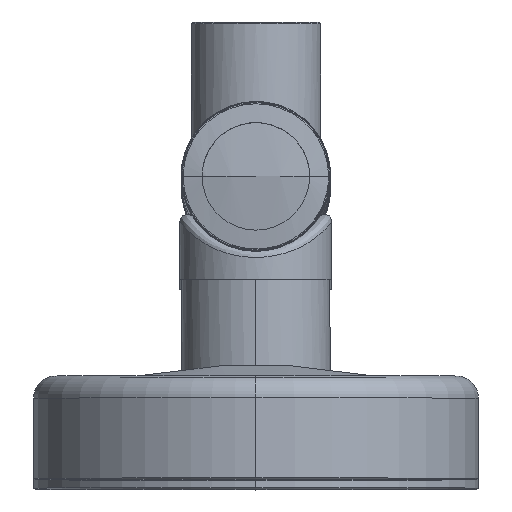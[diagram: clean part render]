
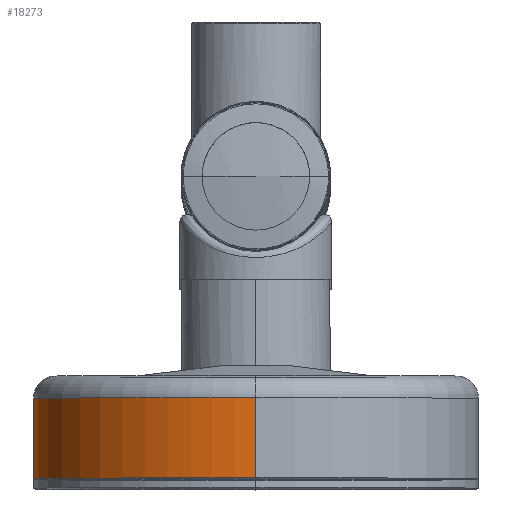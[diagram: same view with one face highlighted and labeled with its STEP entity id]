
A CAD part, top view. The second image highlights one B-rep face of the part: STEP entity #18273.
In plain terms, the highlighted cylindrical face has radius 30 mm (diameter 60 mm), a partial arc.
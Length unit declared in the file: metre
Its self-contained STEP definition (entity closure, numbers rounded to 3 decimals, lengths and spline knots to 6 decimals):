
#17388=VERTEX_POINT('',#17389);
#17389=CARTESIAN_POINT('',(0.0,-0.0128,-0.018));
#17396=VERTEX_POINT('',#17397);
#17397=CARTESIAN_POINT('',(0.0,-0.0128,0.042));
#18082=VERTEX_POINT('',#18083);
#18083=CARTESIAN_POINT('',(0.0,-0.002,0.042));
#18084=VERTEX_POINT('',#18085);
#18085=CARTESIAN_POINT('',(0.0,-0.002,-0.018));
#18194=CYLINDRICAL_SURFACE('',#18195,0.03);
#18195=AXIS2_PLACEMENT_3D('',#18196,#18197,#18198);
#18196=CARTESIAN_POINT('',(0.0,0.0,0.012));
#18197=DIRECTION('',(0.0,1.0,0.0));
#18198=DIRECTION('',(0.0,0.0,1.0));
#18203=EDGE_CURVE('',#17388,#18084,#18204,.T.);
#18204=LINE('',#18205,#18206);
#18205=CARTESIAN_POINT('',(0.0,0.0,-0.018));
#18206=VECTOR('',#18207,1.0);
#18207=DIRECTION('',(0.0,1.0,0.0));
#18210=EDGE_CURVE('',#17396,#18082,#18211,.T.);
#18211=LINE('',#18212,#18213);
#18212=CARTESIAN_POINT('',(0.0,-0.013,0.042));
#18213=VECTOR('',#18214,1.0);
#18214=DIRECTION('',(0.0,1.0,0.0));
#18272=FACE_OUTER_BOUND('',#18274,.T.);
#18273=ADVANCED_FACE('',(#18272),#18194,.T.);
#18274=EDGE_LOOP('',(#18275,#18276,#18283,#18284));
#18275=ORIENTED_EDGE('',*,*,#18203,.F.);
#18276=ORIENTED_EDGE('',*,*,#18278,.T.);
#18277=CARTESIAN_POINT('',(0.0,-0.0128,-0.018));
#18278=EDGE_CURVE('',#17388,#17396,#18279,.T.);
#18279=(B_SPLINE_CURVE(3,(#18277,#18280,#18281,#18282),.UNSPECIFIED.,.F.,
  .U.)B_SPLINE_CURVE_WITH_KNOTS((4,4),(0.0,1.0),.UNSPECIFIED.)BOUNDED_CURVE(
  )CURVE()GEOMETRIC_REPRESENTATION_ITEM()RATIONAL_B_SPLINE_CURVE((1.0,
  0.333,0.333,1.0))REPRESENTATION_ITEM(''));
#18280=CARTESIAN_POINT('',(-0.06,-0.0128,-0.018));
#18281=CARTESIAN_POINT('',(-0.06,-0.0128,0.042));
#18282=CARTESIAN_POINT('',(0.0,-0.0128,0.042));
#18283=ORIENTED_EDGE('',*,*,#18210,.T.);
#18284=ORIENTED_EDGE('',*,*,#18286,.F.);
#18285=CARTESIAN_POINT('',(0.0,-0.002,-0.018));
#18286=EDGE_CURVE('',#18084,#18082,#18287,.T.);
#18287=(B_SPLINE_CURVE(3,(#18285,#18288,#18289,#18290),.UNSPECIFIED.,.F.,
  .U.)B_SPLINE_CURVE_WITH_KNOTS((4,4),(0.0,1.0),.UNSPECIFIED.)BOUNDED_CURVE(
  )CURVE()GEOMETRIC_REPRESENTATION_ITEM()RATIONAL_B_SPLINE_CURVE((1.0,
  0.333,0.333,1.0))REPRESENTATION_ITEM(''));
#18288=CARTESIAN_POINT('',(-0.06,-0.002,-0.018));
#18289=CARTESIAN_POINT('',(-0.06,-0.002,0.042));
#18290=CARTESIAN_POINT('',(0.0,-0.002,0.042));
